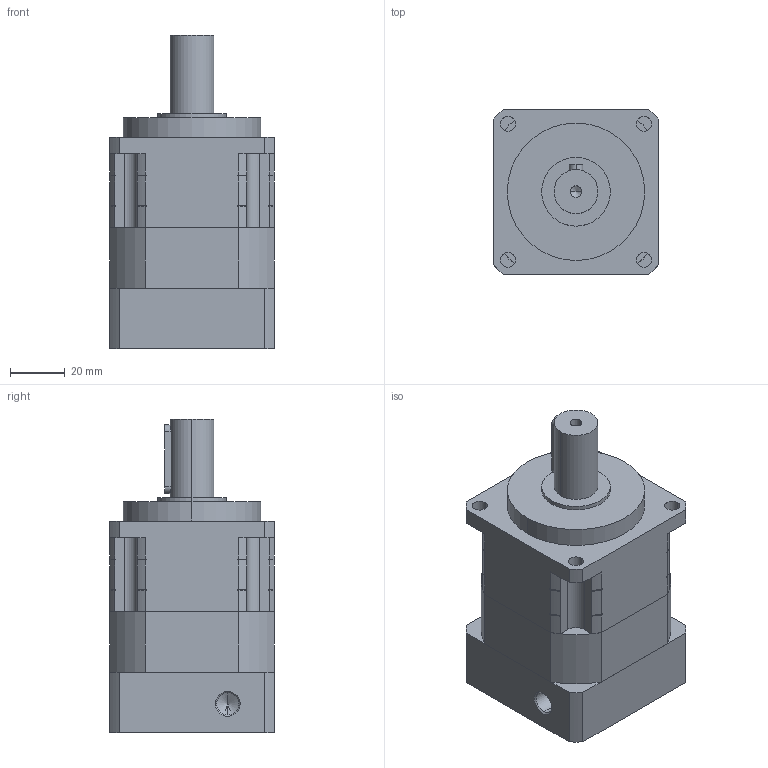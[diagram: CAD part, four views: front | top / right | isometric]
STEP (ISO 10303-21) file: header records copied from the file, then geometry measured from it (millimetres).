
FILE_DESCRIPTION (( 'STEP AP203' ), '1' );
FILE_NAME ('SG060L1.STEP', '2017-06-09T03:38:54', ( 'user1' ), ( '' ), 'SwSTEP 2.0', 'SolidWorks 2012', '' );
FILE_SCHEMA (( 'CONFIG_CONTROL_DESIGN' ));
Length unit declared in the file: millimetre
Products named in the file (7): SG060L1; 零件6^PG60L1; 零件5^PG60L1; 零件4^PG60L1; 零件3^PG60L1_1; 零件2^PG60L1_1; 零件1^PG60L1_1
Assembly tree (6 placements, depth 2):
  SG060L1
    零件1^PG60L1_1
    零件2^PG60L1_1
    零件3^PG60L1_1
    零件4^PG60L1
    零件5^PG60L1
    零件6^PG60L1
Bounding box: 60 x 60 x 114 mm (x, y, z)
Volume: 251955.2 mm3; surface area: 53240 mm2
Topology: 8 solids, 8 shells, 258 faces, 670 edges, 433 vertices
Faces by surface type: cylinder 137, plane 95, cone 26
Entity records: 8815 total; most frequent: CARTESIAN_POINT 1526, DIRECTION 1466, ORIENTED_EDGE 1312, EDGE_CURVE 656, AXIS2_PLACEMENT_3D 551, VERTEX_POINT 433, VECTOR 364, LINE 364
